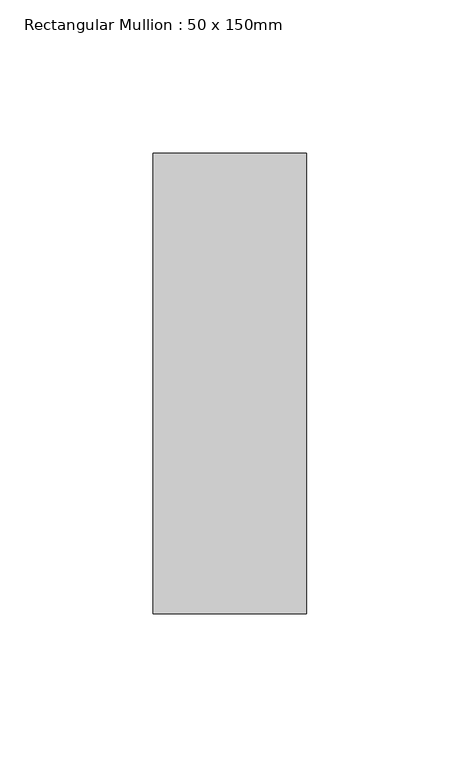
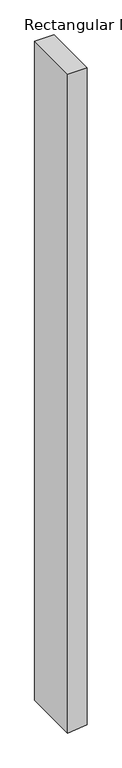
"""IFC4 building model written with IfcOpenShell, lengths in millimetres: member geometry, Rectangular Mullion : 50 x 150mm."""

from ifc_helpers import new_model, si_unit, frame, origin, place, context, project, spatial, polyline, outline, extrude, source, transform, mapped, element, save


def rectangular_mullion_50_x_150mm_62eaee5f(model_context):
    return source(origin(), model_context, "Body", "SweptSolid", [
        extrude(outline(polyline([(0.0, 25.0), (0.0, -25.0), (-1823.3348809, -25.0), (-1821.3241138, -5.0022633), (-1818.3073942, 25.0), (0.0, 25.0)])), frame((0.0, -75.0, 0.0), z_axis=(0.0, 1.0, 0.0), x_axis=(0.0, 0.0, 1.0)), (0.0, 0.0, 1.0), 150.0),
    ])


if __name__ == "__main__":
    model = new_model("IFC4")
    model_context = context("Model", 3, world=origin())
    ifc_project = project(units=[si_unit("LENGTHUNIT", "METRE", prefix="MILLI")], contexts=[model_context])
    site = spatial("IfcSite", under=ifc_project)
    building = spatial("IfcBuilding", under=site)
    placement = place(None, origin())
    rectangular_mullion_50_x_150mm_shape = rectangular_mullion_50_x_150mm_62eaee5f(model_context)
    element("IfcMember", 1, ObjectType="Rectangular Mullion : 50 x 150mm", at=placement, inside=building, context=model_context, shape_type="MappedRepresentation", body=[
        mapped(rectangular_mullion_50_x_150mm_shape, transform((0.0, 0.0, 0.0), x_axis=(1.0, 0.0, 0.0), y_axis=(0.0, 1.0, 0.0), z_axis=(0.0, 0.0, 1.0))),
    ])
    save(model, "model.ifc")
